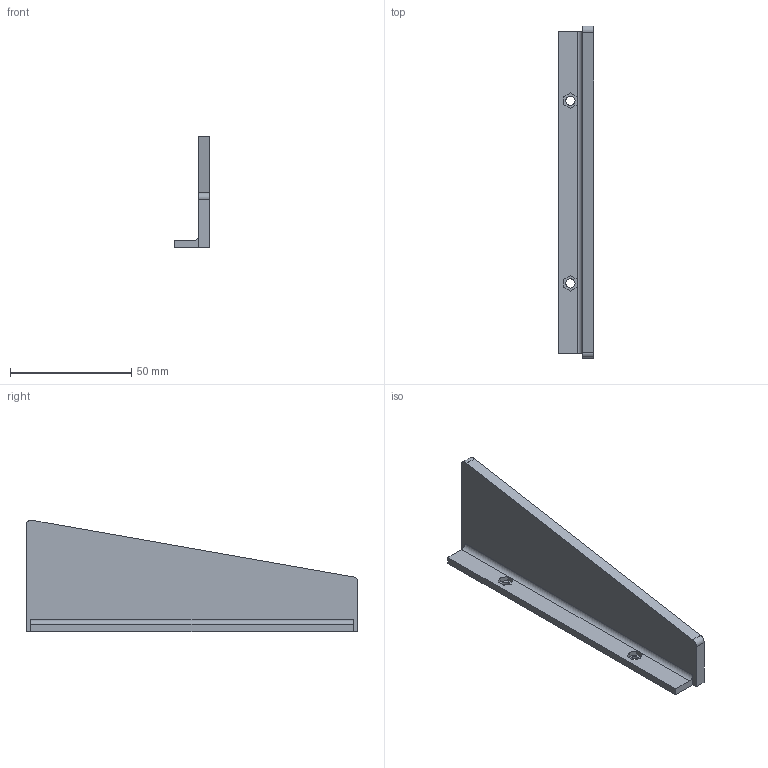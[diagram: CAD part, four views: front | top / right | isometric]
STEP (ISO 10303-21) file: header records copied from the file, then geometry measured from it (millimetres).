
FILE_DESCRIPTION(/* description */ (''),/* implementation_level */ '2;1');
FILE_NAME(/* name */ 'Side_panel_bracket_right_v0.1.step',/* time_stamp */ '2026-08-26T16:33:19+01:00',/* author */ (''),/* organization */ (''),/* preprocessor_version */ 'ST-DEVELOPER v20.1',/* originating_system */ 'Autodesk Translation Framework v15.8.0.0',/* authorisation */ '');
FILE_SCHEMA (('AUTOMOTIVE_DESIGN { 1 0 10303 214 3 1 1 }'));
Length unit declared in the file: millimetre
Products named in the file (1): Side_panel_bracket_right
Bounding box: 14.6 x 136.8 x 46.03 mm (x, y, z)
Volume: 25582.2 mm3; surface area: 13635.1 mm2
Topology: 1 solids, 1 shells, 35 faces, 92 edges, 61 vertices
Faces by surface type: plane 30, cylinder 5
Full cylindrical faces by diameter (mm): 3.8 x2
Entity records: 1109 total; most frequent: CARTESIAN_POINT 189, ORIENTED_EDGE 184, DIRECTION 174, EDGE_CURVE 92, LINE 82, VECTOR 82, VERTEX_POINT 61, AXIS2_PLACEMENT_3D 46
